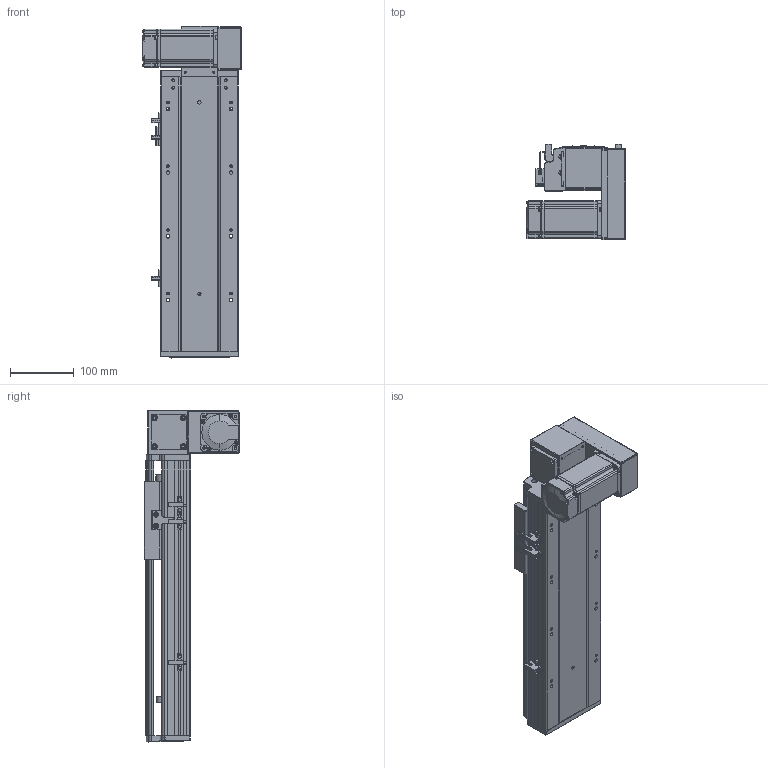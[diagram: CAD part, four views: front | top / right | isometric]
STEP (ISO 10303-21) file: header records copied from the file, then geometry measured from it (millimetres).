
FILE_DESCRIPTION (( 'STEP AP203' ), '1' );
FILE_NAME ('RY120-T-300-DR.SLDASM_200.step', '2021-03-01T03:34:29', ( '盈信电脑' ), ( '东莞市道滘镇水果街19号' ), 'SwSTEP 2.0', 'SolidWorks 2012', '' );
FILE_SCHEMA (( 'CONFIG_CONTROL_DESIGN' ));
Length unit declared in the file: millimetre
Products named in the file (17): RY120-T-300-DR.SLDASM_200; RY120-T萇儂假蚾啣; RY120-T蹟翐M4; RY120-T主同步轮轴承压盖; RY120-T萇儂欶; 15; 滅袉蝶18-10; RY120-T翋肮祭謫裔啣; RY120-T肮祭湍揤踡輸2; RY120外置感应片(140共用）; RY120-T肮祭湍揤踡輸1; RY120-T翋肮祭盓傅釱; RY120綴裔啣; RY120肮祭湍臏賑輸; RY120-T-300-DR倰第奻裔啣_200; 覜茼ん672; RY120-T-300-DR倰第菁釱_200
Assembly tree (22 placements, depth 2):
  RY120-T-300-DR.SLDASM_200
    RY120-T-300-DR倰第菁釱_200
    RY120-T-300-DR倰第奻裔啣_200
    RY120肮祭湍臏賑輸
    RY120綴裔啣
    覜茼ん672  x3
    RY120外置感应片(140共用）
    RY120-T肮祭湍揤踡輸1
    RY120-T肮祭湍揤踡輸2
    RY120-T翋肮祭盓傅釱
    滅袉蝶18-10  x2
    RY120-T翋肮祭謫裔啣
    15
    RY120-T萇儂假蚾啣
    RY120-T蹟翐M4  x4
    RY120-T萇儂欶
    RY120-T主同步轮轴承压盖
Bounding box: 155.5 x 150 x 521 mm (x, y, z)
Volume: 1865827.4 mm3; surface area: 656407.5 mm2
Topology: 23 solids, 23 shells, 2582 faces, 7004 edges, 4516 vertices
Faces by surface type: plane 1382, cylinder 920, cone 191, bspline 89
Entity records: 81019 total; most frequent: CARTESIAN_POINT 19918, ORIENTED_EDGE 12536, DIRECTION 11926, EDGE_CURVE 6268, VERTEX_POINT 4103, LINE 4056, VECTOR 4056, AXIS2_PLACEMENT_3D 3935
